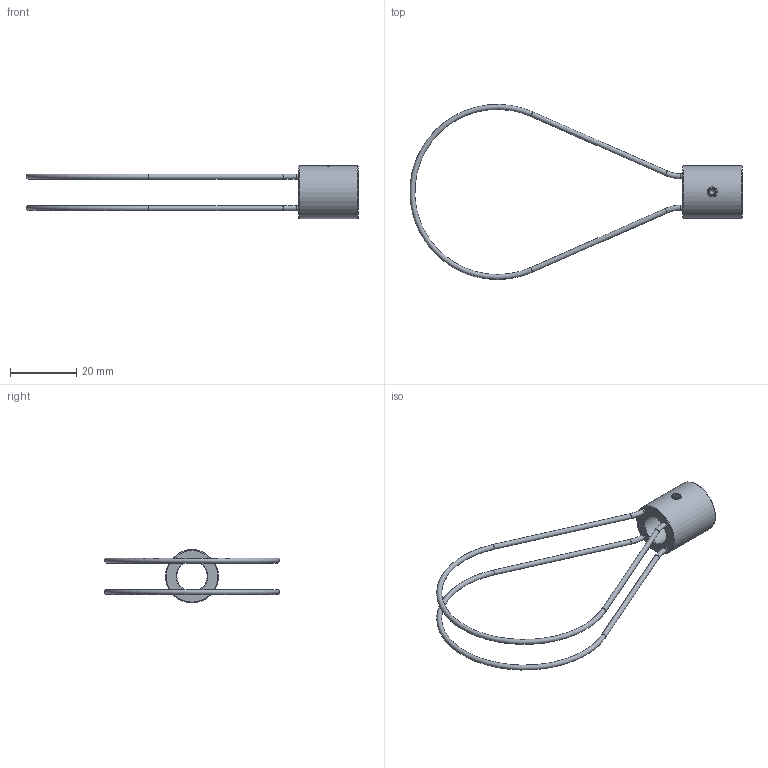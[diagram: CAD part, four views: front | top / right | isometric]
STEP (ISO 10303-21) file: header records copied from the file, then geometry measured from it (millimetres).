
FILE_DESCRIPTION(/* description */ (''),/* implementation_level */ '2;1');
FILE_NAME(/* name */ 'Schutzbuegel_kpl.stp',/* time_stamp */ '2018-11-07T08:33:56+01:00',/* author */ (''),/* organization */ (''),/* preprocessor_version */ 'ST-DEVELOPER v16',/* originating_system */ 'SIEMENS PLM Software NX 11.0',/* authorisation */ '');
FILE_SCHEMA (('AP203_CONFIGURATION_CONTROLLED_3D_DESIGN_OF_MECHANICAL_PARTS_AND_ASSEMBLIES_MIM_LF { 1 0 10303 403 2 1 2}'));
Length unit declared in the file: millimetre
Products named in the file (1): kien21201F9At79g
Bounding box: 100.46 x 52.99 x 16.2 mm (x, y, z)
Volume: 3121.6 mm3; surface area: 3964.5 mm2
Topology: 1 solids, 1 shells, 57 faces, 115 edges, 67 vertices
Faces by surface type: plane 21, cylinder 16, cone 13, torus 6, bspline 1
Full cylindrical faces by diameter (mm): 1.5 x9, 1.6 x4, 3 x1, 9.2 x1, 16 x1
Entity records: 1546 total; most frequent: CARTESIAN_POINT 382, DIRECTION 230, ORIENTED_EDGE 162, AXIS2_PLACEMENT_3D 106, EDGE_LOOP 100, FACE_BOUND 82, EDGE_CURVE 81, VERTEX_POINT 64
